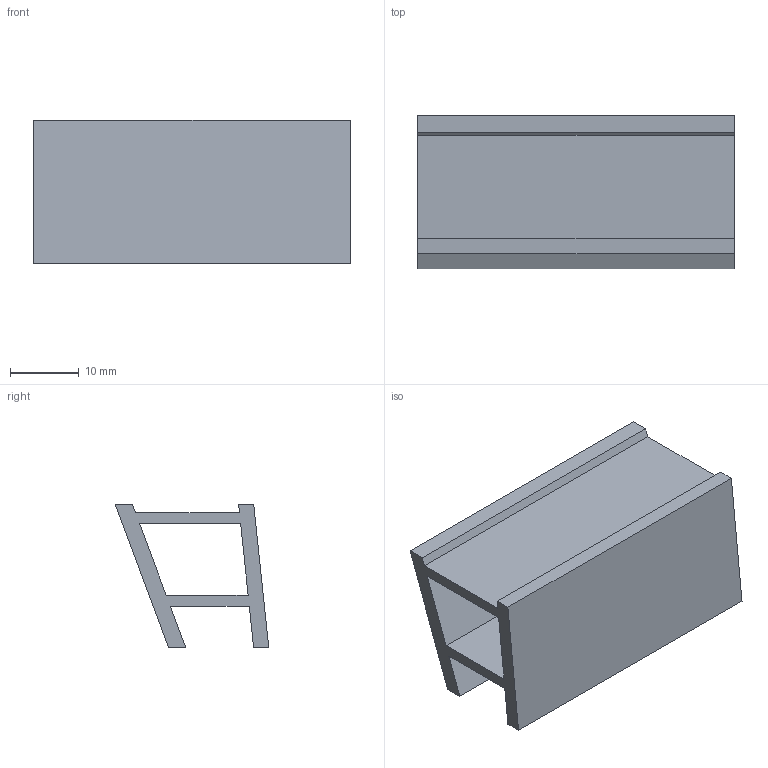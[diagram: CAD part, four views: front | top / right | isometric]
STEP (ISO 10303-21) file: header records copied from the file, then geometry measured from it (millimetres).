
FILE_DESCRIPTION(('Open CASCADE Model'),'2;1');
FILE_NAME('Open CASCADE Shape Model','2026-10-15T18:58:36',('Author'),( 'Open CASCADE'),'Open CASCADE STEP processor 7.9','Open CASCADE 7.9' ,'Unknown');
FILE_SCHEMA(('AUTOMOTIVE_DESIGN { 1 0 10303 214 1 1 1 1 }'));
Length unit declared in the file: millimetre
Products named in the file (1): Open CASCADE STEP translator 7.9 25
Bounding box: 46 x 22.34 x 20.83 mm (x, y, z)
Volume: 6464 mm3; surface area: 6830.8 mm2
Topology: 1 solids, 1 shells, 18 faces, 48 edges, 32 vertices
Faces by surface type: plane 18
Entity records: 1190 total; most frequent: CARTESIAN_POINT 195, DIRECTION 182, LINE 144, VECTOR 144, ORIENTED_EDGE 96, PCURVE 96, DEFINITIONAL_REPRESENTATION 96, EDGE_CURVE 48
